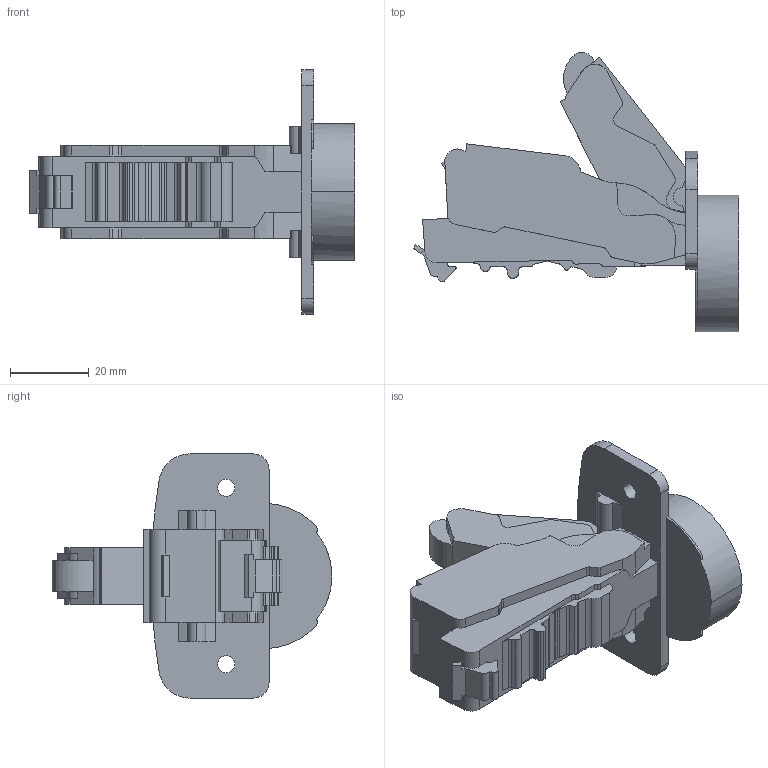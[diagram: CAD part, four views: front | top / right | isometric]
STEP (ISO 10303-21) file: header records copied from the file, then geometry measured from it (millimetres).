
FILE_DESCRIPTION (( 'STEP AP214' ), '1' );
FILE_NAME ('C82A605FA-Close.STEP', '2025-07-21T07:49:56', ( '微软用户' ), ( '微软中国' ), 'SwSTEP 2.0', 'SolidWorks 2021', '' );
FILE_SCHEMA (( 'AUTOMOTIVE_DESIGN' ));
Length unit declared in the file: millimetre
Products named in the file (1): C82A605FA-Close
Bounding box: 82.94 x 71.22 x 62.2 mm (x, y, z)
Volume: 59528.6 mm3; surface area: 15569.5 mm2
Topology: 1 solids, 4 shells, 265 faces, 776 edges, 520 vertices
Faces by surface type: plane 129, cylinder 116, bspline 16, torus 4
Entity records: 9539 total; most frequent: CARTESIAN_POINT 2426, ORIENTED_EDGE 1552, DIRECTION 1445, EDGE_CURVE 776, VERTEX_POINT 520, AXIS2_PLACEMENT_3D 493, VECTOR 459, LINE 459
